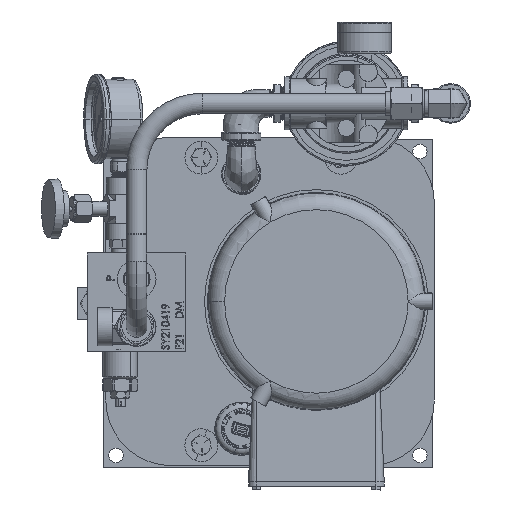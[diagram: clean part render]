
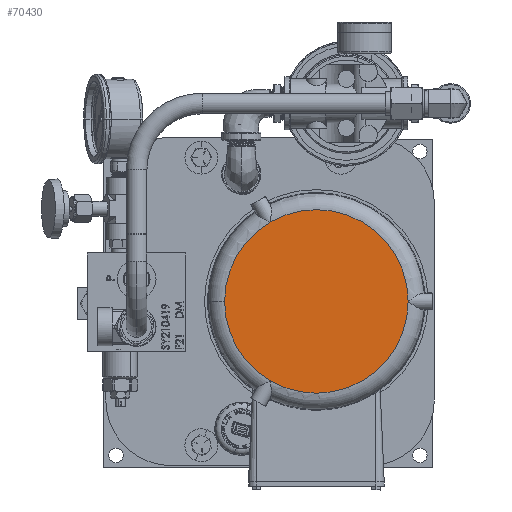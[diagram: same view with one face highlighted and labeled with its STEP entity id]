
A CAD part, left-side view. The second image highlights one B-rep face of the part: STEP entity #70430.
In plain terms, the highlighted planar face has unit normal (-1, 0, 0).
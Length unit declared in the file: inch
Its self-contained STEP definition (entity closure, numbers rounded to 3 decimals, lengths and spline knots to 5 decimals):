
#6688 = AXIS2_PLACEMENT_3D ( 'NONE', #16375, #112717, #14677 ) ;
#7214 = AXIS2_PLACEMENT_3D ( 'NONE', #89869, #10896, #81184 ) ;
#10896 = DIRECTION ( 'NONE',  ( 1., 0., 0. ) ) ;
#11544 = EDGE_CURVE ( 'NONE', #93336, #82385, #20901, .T. ) ;
#14015 = ORIENTED_EDGE ( 'NONE', *, *, #29778, .F. ) ;
#14599 = CARTESIAN_POINT ( 'NONE',  ( -9.9467, 7.0052, 12.83236 ) ) ;
#14677 = DIRECTION ( 'NONE',  ( 0., 1., 0. ) ) ;
#16375 = CARTESIAN_POINT ( 'NONE',  ( -9.9467, 7.0052, 12.83236 ) ) ;
#16560 = EDGE_LOOP ( 'NONE', ( #92082, #14015, #80773, #33475 ) ) ;
#20901 = CIRCLE ( 'NONE', #85353, 2.79359 ) ;
#21494 = DIRECTION ( 'NONE',  ( 1., 0., 0. ) ) ;
#28934 = CARTESIAN_POINT ( 'NONE',  ( -9.9467, 8.402, 10.41304 ) ) ;
#29778 = EDGE_CURVE ( 'NONE', #45517, #93336, #77085, .T. ) ;
#33475 = ORIENTED_EDGE ( 'NONE', *, *, #94328, .F. ) ;
#41524 = CARTESIAN_POINT ( 'NONE',  ( -9.9467, 7.0052, 12.83236 ) ) ;
#45517 = VERTEX_POINT ( 'NONE', #64460 ) ;
#45785 = FACE_OUTER_BOUND ( 'NONE', #16560, .T. ) ;
#51450 = AXIS2_PLACEMENT_3D ( 'NONE', #41524, #111360, #57059 ) ;
#56232 = CIRCLE ( 'NONE', #6688, 2.79359 ) ;
#57059 = DIRECTION ( 'NONE',  ( 0., 1., 0. ) ) ;
#64460 = CARTESIAN_POINT ( 'NONE',  ( -9.9467, 8.402, 15.25169 ) ) ;
#70430 = ADVANCED_FACE ( 'NONE', ( #45785 ), #79829, .F. ) ;
#76533 = EDGE_CURVE ( 'NONE', #100542, #45517, #56232, .T. ) ;
#77085 = CIRCLE ( 'NONE', #7214, 2.79359 ) ;
#79829 = PLANE ( 'NONE',  #51450 ) ;
#80773 = ORIENTED_EDGE ( 'NONE', *, *, #76533, .F. ) ;
#80977 = CARTESIAN_POINT ( 'NONE',  ( -9.9467, 9.7988, 12.83236 ) ) ;
#81184 = DIRECTION ( 'NONE',  ( 0., 1., 0. ) ) ;
#82385 = VERTEX_POINT ( 'NONE', #28934 ) ;
#82621 = CARTESIAN_POINT ( 'NONE',  ( -9.9467, 7.0052, 12.83236 ) ) ;
#83809 = CIRCLE ( 'NONE', #104148, 2.79359 ) ;
#85353 = AXIS2_PLACEMENT_3D ( 'NONE', #82621, #90720, #98814 ) ;
#89869 = CARTESIAN_POINT ( 'NONE',  ( -9.9467, 7.0052, 12.83236 ) ) ;
#90720 = DIRECTION ( 'NONE',  ( 1., 0., 0. ) ) ;
#92082 = ORIENTED_EDGE ( 'NONE', *, *, #11544, .F. ) ;
#93336 = VERTEX_POINT ( 'NONE', #95982 ) ;
#94328 = EDGE_CURVE ( 'NONE', #82385, #100542, #83809, .T. ) ;
#95982 = CARTESIAN_POINT ( 'NONE',  ( -9.9467, 4.21161, 12.83236 ) ) ;
#98814 = DIRECTION ( 'NONE',  ( 0., 1., 0. ) ) ;
#100542 = VERTEX_POINT ( 'NONE', #80977 ) ;
#101129 = DIRECTION ( 'NONE',  ( 0., 1., 0. ) ) ;
#104148 = AXIS2_PLACEMENT_3D ( 'NONE', #14599, #21494, #101129 ) ;
#111360 = DIRECTION ( 'NONE',  ( 1., 0., 0. ) ) ;
#112717 = DIRECTION ( 'NONE',  ( 1., 0., 0. ) ) ;
